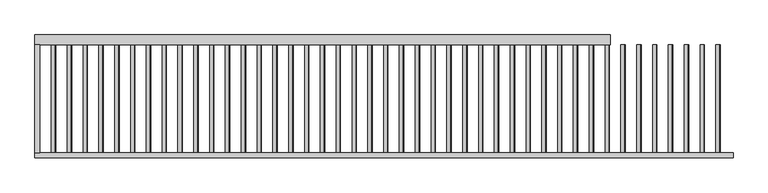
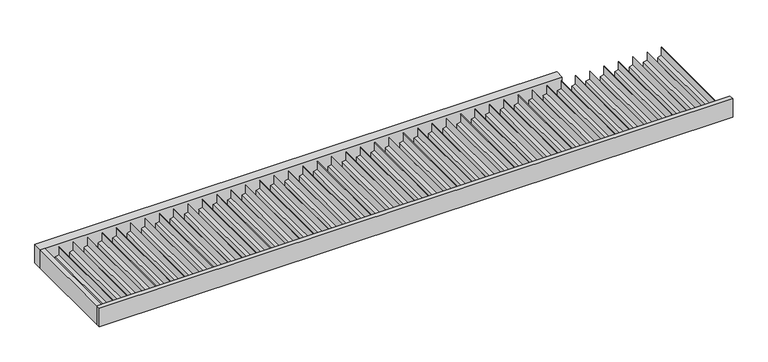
"""IFC4 building model written with IfcOpenShell, lengths in millimetres: proxy geometry, Renson_Amani_Canopy : Renson_Amani_Canopy."""

from ifc_helpers import new_model, si_unit, frame, origin, place, context, project, spatial, polyline, outline, extrude, source, transform, mapped, element, save


def generic_models_fbfd15e4(model_context):
    return source(origin(), model_context, "Body", "SweptSolid", [
        extrude(outline(polyline([(-99.0, 4735.0), (-150.0, 4735.0), (-150.0, 4765.0), (-27.0, 4765.0), (-27.0, 4763.0), (-92.0, 4763.0), (-99.0, 4735.0)])), frame((0.0, -820.0, 0.0), z_axis=(0.0, 1.0, 0.0), x_axis=(0.0, 0.0, 1.0)), (0.0, 0.0, 1.0), 750.0),
        extrude(outline(polyline([(-99.0, 4625.0), (-150.0, 4625.0), (-150.0, 4655.0), (-27.0, 4655.0), (-27.0, 4653.0), (-92.0, 4653.0), (-99.0, 4625.0)])), frame((0.0, -820.0, 0.0), z_axis=(0.0, 1.0, 0.0), x_axis=(0.0, 0.0, 1.0)), (0.0, 0.0, 1.0), 750.0),
        extrude(outline(polyline([(-99.0, 4515.0), (-150.0, 4515.0), (-150.0, 4545.0), (-27.0, 4545.0), (-27.0, 4543.0), (-92.0, 4543.0), (-99.0, 4515.0)])), frame((0.0, -820.0, 0.0), z_axis=(0.0, 1.0, 0.0), x_axis=(0.0, 0.0, 1.0)), (0.0, 0.0, 1.0), 750.0),
        extrude(outline(polyline([(-99.0, 4405.0), (-150.0, 4405.0), (-150.0, 4435.0), (-27.0, 4435.0), (-27.0, 4433.0), (-92.0, 4433.0), (-99.0, 4405.0)])), frame((0.0, -820.0, 0.0), z_axis=(0.0, 1.0, 0.0), x_axis=(0.0, 0.0, 1.0)), (0.0, 0.0, 1.0), 750.0),
        extrude(outline(polyline([(-99.0, 4295.0), (-150.0, 4295.0), (-150.0, 4325.0), (-27.0, 4325.0), (-27.0, 4323.0), (-92.0, 4323.0), (-99.0, 4295.0)])), frame((0.0, -820.0, 0.0), z_axis=(0.0, 1.0, 0.0), x_axis=(0.0, 0.0, 1.0)), (0.0, 0.0, 1.0), 750.0),
        extrude(outline(polyline([(-99.0, 4185.0), (-150.0, 4185.0), (-150.0, 4215.0), (-27.0, 4215.0), (-27.0, 4213.0), (-92.0, 4213.0), (-99.0, 4185.0)])), frame((0.0, -820.0, 0.0), z_axis=(0.0, 1.0, 0.0), x_axis=(0.0, 0.0, 1.0)), (0.0, 0.0, 1.0), 750.0),
        extrude(outline(polyline([(-99.0, 4075.0), (-150.0, 4075.0), (-150.0, 4105.0), (-27.0, 4105.0), (-27.0, 4103.0), (-92.0, 4103.0), (-99.0, 4075.0)])), frame((0.0, -820.0, 0.0), z_axis=(0.0, 1.0, 0.0), x_axis=(0.0, 0.0, 1.0)), (0.0, 0.0, 1.0), 750.0),
        extrude(outline(polyline([(-99.0, 3965.0), (-150.0, 3965.0), (-150.0, 3995.0), (-27.0, 3995.0), (-27.0, 3993.0), (-92.0, 3993.0), (-99.0, 3965.0)])), frame((0.0, -820.0, 0.0), z_axis=(0.0, 1.0, 0.0), x_axis=(0.0, 0.0, 1.0)), (0.0, 0.0, 1.0), 750.0),
        extrude(outline(polyline([(-99.0, 3855.0), (-150.0, 3855.0), (-150.0, 3885.0), (-27.0, 3885.0), (-27.0, 3883.0), (-92.0, 3883.0), (-99.0, 3855.0)])), frame((0.0, -820.0, 0.0), z_axis=(0.0, 1.0, 0.0), x_axis=(0.0, 0.0, 1.0)), (0.0, 0.0, 1.0), 750.0),
        extrude(outline(polyline([(-99.0, 3745.0), (-150.0, 3745.0), (-150.0, 3775.0), (-27.0, 3775.0), (-27.0, 3773.0), (-92.0, 3773.0), (-99.0, 3745.0)])), frame((0.0, -820.0, 0.0), z_axis=(0.0, 1.0, 0.0), x_axis=(0.0, 0.0, 1.0)), (0.0, 0.0, 1.0), 750.0),
        extrude(outline(polyline([(-99.0, 3635.0), (-150.0, 3635.0), (-150.0, 3665.0), (-27.0, 3665.0), (-27.0, 3663.0), (-92.0, 3663.0), (-99.0, 3635.0)])), frame((0.0, -820.0, 0.0), z_axis=(0.0, 1.0, 0.0), x_axis=(0.0, 0.0, 1.0)), (0.0, 0.0, 1.0), 750.0),
        extrude(outline(polyline([(-99.0, 3525.0), (-150.0, 3525.0), (-150.0, 3555.0), (-27.0, 3555.0), (-27.0, 3553.0), (-92.0, 3553.0), (-99.0, 3525.0)])), frame((0.0, -820.0, 0.0), z_axis=(0.0, 1.0, 0.0), x_axis=(0.0, 0.0, 1.0)), (0.0, 0.0, 1.0), 750.0),
        extrude(outline(polyline([(-99.0, 3415.0), (-150.0, 3415.0), (-150.0, 3445.0), (-27.0, 3445.0), (-27.0, 3443.0), (-92.0, 3443.0), (-99.0, 3415.0)])), frame((0.0, -820.0, 0.0), z_axis=(0.0, 1.0, 0.0), x_axis=(0.0, 0.0, 1.0)), (0.0, 0.0, 1.0), 750.0),
        extrude(outline(polyline([(-99.0, 3305.0), (-150.0, 3305.0), (-150.0, 3335.0), (-27.0, 3335.0), (-27.0, 3333.0), (-92.0, 3333.0), (-99.0, 3305.0)])), frame((0.0, -820.0, 0.0), z_axis=(0.0, 1.0, 0.0), x_axis=(0.0, 0.0, 1.0)), (0.0, 0.0, 1.0), 750.0),
        extrude(outline(polyline([(-99.0, 3195.0), (-150.0, 3195.0), (-150.0, 3225.0), (-27.0, 3225.0), (-27.0, 3223.0), (-92.0, 3223.0), (-99.0, 3195.0)])), frame((0.0, -820.0, 0.0), z_axis=(0.0, 1.0, 0.0), x_axis=(0.0, 0.0, 1.0)), (0.0, 0.0, 1.0), 750.0),
        extrude(outline(polyline([(-99.0, 3085.0), (-150.0, 3085.0), (-150.0, 3115.0), (-27.0, 3115.0), (-27.0, 3113.0), (-92.0, 3113.0), (-99.0, 3085.0)])), frame((0.0, -820.0, 0.0), z_axis=(0.0, 1.0, 0.0), x_axis=(0.0, 0.0, 1.0)), (0.0, 0.0, 1.0), 750.0),
        extrude(outline(polyline([(-99.0, 2975.0), (-150.0, 2975.0), (-150.0, 3005.0), (-27.0, 3005.0), (-27.0, 3003.0), (-92.0, 3003.0), (-99.0, 2975.0)])), frame((0.0, -820.0, 0.0), z_axis=(0.0, 1.0, 0.0), x_axis=(0.0, 0.0, 1.0)), (0.0, 0.0, 1.0), 750.0),
        extrude(outline(polyline([(-99.0, 2865.0), (-150.0, 2865.0), (-150.0, 2895.0), (-27.0, 2895.0), (-27.0, 2893.0), (-92.0, 2893.0), (-99.0, 2865.0)])), frame((0.0, -820.0, 0.0), z_axis=(0.0, 1.0, 0.0), x_axis=(0.0, 0.0, 1.0)), (0.0, 0.0, 1.0), 750.0),
        extrude(outline(polyline([(-99.0, 2755.0), (-150.0, 2755.0), (-150.0, 2785.0), (-27.0, 2785.0), (-27.0, 2783.0), (-92.0, 2783.0), (-99.0, 2755.0)])), frame((0.0, -820.0, 0.0), z_axis=(0.0, 1.0, 0.0), x_axis=(0.0, 0.0, 1.0)), (0.0, 0.0, 1.0), 750.0),
        extrude(outline(polyline([(-99.0, 2645.0), (-150.0, 2645.0), (-150.0, 2675.0), (-27.0, 2675.0), (-27.0, 2673.0), (-92.0, 2673.0), (-99.0, 2645.0)])), frame((0.0, -820.0, 0.0), z_axis=(0.0, 1.0, 0.0), x_axis=(0.0, 0.0, 1.0)), (0.0, 0.0, 1.0), 750.0),
        extrude(outline(polyline([(-99.0, 2535.0), (-150.0, 2535.0), (-150.0, 2565.0), (-27.0, 2565.0), (-27.0, 2563.0), (-92.0, 2563.0), (-99.0, 2535.0)])), frame((0.0, -820.0, 0.0), z_axis=(0.0, 1.0, 0.0), x_axis=(0.0, 0.0, 1.0)), (0.0, 0.0, 1.0), 750.0),
        extrude(outline(polyline([(-99.0, 2425.0), (-150.0, 2425.0), (-150.0, 2455.0), (-27.0, 2455.0), (-27.0, 2453.0), (-92.0, 2453.0), (-99.0, 2425.0)])), frame((0.0, -820.0, 0.0), z_axis=(0.0, 1.0, 0.0), x_axis=(0.0, 0.0, 1.0)), (0.0, 0.0, 1.0), 750.0),
        extrude(outline(polyline([(-99.0, 2315.0), (-150.0, 2315.0), (-150.0, 2345.0), (-27.0, 2345.0), (-27.0, 2343.0), (-92.0, 2343.0), (-99.0, 2315.0)])), frame((0.0, -820.0, 0.0), z_axis=(0.0, 1.0, 0.0), x_axis=(0.0, 0.0, 1.0)), (0.0, 0.0, 1.0), 750.0),
        extrude(outline(polyline([(-99.0, 2205.0), (-150.0, 2205.0), (-150.0, 2235.0), (-27.0, 2235.0), (-27.0, 2233.0), (-92.0, 2233.0), (-99.0, 2205.0)])), frame((0.0, -820.0, 0.0), z_axis=(0.0, 1.0, 0.0), x_axis=(0.0, 0.0, 1.0)), (0.0, 0.0, 1.0), 750.0),
        extrude(outline(polyline([(-99.0, 2095.0), (-150.0, 2095.0), (-150.0, 2125.0), (-27.0, 2125.0), (-27.0, 2123.0), (-92.0, 2123.0), (-99.0, 2095.0)])), frame((0.0, -820.0, 0.0), z_axis=(0.0, 1.0, 0.0), x_axis=(0.0, 0.0, 1.0)), (0.0, 0.0, 1.0), 750.0),
        extrude(outline(polyline([(-99.0, 1985.0), (-150.0, 1985.0), (-150.0, 2015.0), (-27.0, 2015.0), (-27.0, 2013.0), (-92.0, 2013.0), (-99.0, 1985.0)])), frame((0.0, -820.0, 0.0), z_axis=(0.0, 1.0, 0.0), x_axis=(0.0, 0.0, 1.0)), (0.0, 0.0, 1.0), 750.0),
        extrude(outline(polyline([(-99.0, 1875.0), (-150.0, 1875.0), (-150.0, 1905.0), (-27.0, 1905.0), (-27.0, 1903.0), (-92.0, 1903.0), (-99.0, 1875.0)])), frame((0.0, -820.0, 0.0), z_axis=(0.0, 1.0, 0.0), x_axis=(0.0, 0.0, 1.0)), (0.0, 0.0, 1.0), 750.0),
        extrude(outline(polyline([(-99.0, 1765.0), (-150.0, 1765.0), (-150.0, 1795.0), (-27.0, 1795.0), (-27.0, 1793.0), (-92.0, 1793.0), (-99.0, 1765.0)])), frame((0.0, -820.0, 0.0), z_axis=(0.0, 1.0, 0.0), x_axis=(0.0, 0.0, 1.0)), (0.0, 0.0, 1.0), 750.0),
        extrude(outline(polyline([(-99.0, 1655.0), (-150.0, 1655.0), (-150.0, 1685.0), (-27.0, 1685.0), (-27.0, 1683.0), (-92.0, 1683.0), (-99.0, 1655.0)])), frame((0.0, -820.0, 0.0), z_axis=(0.0, 1.0, 0.0), x_axis=(0.0, 0.0, 1.0)), (0.0, 0.0, 1.0), 750.0),
        extrude(outline(polyline([(-99.0, 1545.0), (-150.0, 1545.0), (-150.0, 1575.0), (-27.0, 1575.0), (-27.0, 1573.0), (-92.0, 1573.0), (-99.0, 1545.0)])), frame((0.0, -820.0, 0.0), z_axis=(0.0, 1.0, 0.0), x_axis=(0.0, 0.0, 1.0)), (0.0, 0.0, 1.0), 750.0),
        extrude(outline(polyline([(-99.0, 1435.0), (-150.0, 1435.0), (-150.0, 1465.0), (-27.0, 1465.0), (-27.0, 1463.0), (-92.0, 1463.0), (-99.0, 1435.0)])), frame((0.0, -820.0, 0.0), z_axis=(0.0, 1.0, 0.0), x_axis=(0.0, 0.0, 1.0)), (0.0, 0.0, 1.0), 750.0),
        extrude(outline(polyline([(-99.0, 1325.0), (-150.0, 1325.0), (-150.0, 1355.0), (-27.0, 1355.0), (-27.0, 1353.0), (-92.0, 1353.0), (-99.0, 1325.0)])), frame((0.0, -820.0, 0.0), z_axis=(0.0, 1.0, 0.0), x_axis=(0.0, 0.0, 1.0)), (0.0, 0.0, 1.0), 750.0),
        extrude(outline(polyline([(-99.0, 1215.0), (-150.0, 1215.0), (-150.0, 1245.0), (-27.0, 1245.0), (-27.0, 1243.0), (-92.0, 1243.0), (-99.0, 1215.0)])), frame((0.0, -820.0, 0.0), z_axis=(0.0, 1.0, 0.0), x_axis=(0.0, 0.0, 1.0)), (0.0, 0.0, 1.0), 750.0),
        extrude(outline(polyline([(-99.0, 1105.0), (-150.0, 1105.0), (-150.0, 1135.0), (-27.0, 1135.0), (-27.0, 1133.0), (-92.0, 1133.0), (-99.0, 1105.0)])), frame((0.0, -820.0, 0.0), z_axis=(0.0, 1.0, 0.0), x_axis=(0.0, 0.0, 1.0)), (0.0, 0.0, 1.0), 750.0),
        extrude(outline(polyline([(-99.0, 995.0), (-150.0, 995.0), (-150.0, 1025.0), (-27.0, 1025.0), (-27.0, 1023.0), (-92.0, 1023.0), (-99.0, 995.0)])), frame((0.0, -820.0, 0.0), z_axis=(0.0, 1.0, 0.0), x_axis=(0.0, 0.0, 1.0)), (0.0, 0.0, 1.0), 750.0),
        extrude(outline(polyline([(-99.0, 885.0), (-150.0, 885.0), (-150.0, 915.0), (-27.0, 915.0), (-27.0, 913.0), (-92.0, 913.0), (-99.0, 885.0)])), frame((0.0, -820.0, 0.0), z_axis=(0.0, 1.0, 0.0), x_axis=(0.0, 0.0, 1.0)), (0.0, 0.0, 1.0), 750.0),
        extrude(outline(polyline([(-99.0, 775.0), (-150.0, 775.0), (-150.0, 805.0), (-27.0, 805.0), (-27.0, 803.0), (-92.0, 803.0), (-99.0, 775.0)])), frame((0.0, -820.0, 0.0), z_axis=(0.0, 1.0, 0.0), x_axis=(0.0, 0.0, 1.0)), (0.0, 0.0, 1.0), 750.0),
        extrude(outline(polyline([(-99.0, 665.0), (-150.0, 665.0), (-150.0, 695.0), (-27.0, 695.0), (-27.0, 693.0), (-92.0, 693.0), (-99.0, 665.0)])), frame((0.0, -820.0, 0.0), z_axis=(0.0, 1.0, 0.0), x_axis=(0.0, 0.0, 1.0)), (0.0, 0.0, 1.0), 750.0),
        extrude(outline(polyline([(-99.0, 555.0), (-150.0, 555.0), (-150.0, 585.0), (-27.0, 585.0), (-27.0, 583.0), (-92.0, 583.0), (-99.0, 555.0)])), frame((0.0, -820.0, 0.0), z_axis=(0.0, 1.0, 0.0), x_axis=(0.0, 0.0, 1.0)), (0.0, 0.0, 1.0), 750.0),
        extrude(outline(polyline([(-99.0, 445.0), (-150.0, 445.0), (-150.0, 475.0), (-27.0, 475.0), (-27.0, 473.0), (-92.0, 473.0), (-99.0, 445.0)])), frame((0.0, -820.0, 0.0), z_axis=(0.0, 1.0, 0.0), x_axis=(0.0, 0.0, 1.0)), (0.0, 0.0, 1.0), 750.0),
        extrude(outline(polyline([(-99.0, 335.0), (-150.0, 335.0), (-150.0, 365.0), (-27.0, 365.0), (-27.0, 363.0), (-92.0, 363.0), (-99.0, 335.0)])), frame((0.0, -820.0, 0.0), z_axis=(0.0, 1.0, 0.0), x_axis=(0.0, 0.0, 1.0)), (0.0, 0.0, 1.0), 750.0),
        extrude(outline(polyline([(-99.0, 225.0), (-150.0, 225.0), (-150.0, 255.0), (-27.0, 255.0), (-27.0, 253.0), (-92.0, 253.0), (-99.0, 225.0)])), frame((0.0, -820.0, 0.0), z_axis=(0.0, 1.0, 0.0), x_axis=(0.0, 0.0, 1.0)), (0.0, 0.0, 1.0), 750.0),
        extrude(outline(polyline([(-99.0, 115.0), (-150.0, 115.0), (-150.0, 145.0), (-27.0, 145.0), (-27.0, 143.0), (-92.0, 143.0), (-99.0, 115.0)])), frame((0.0, -820.0, 0.0), z_axis=(0.0, 1.0, 0.0), x_axis=(0.0, 0.0, 1.0)), (0.0, 0.0, 1.0), 750.0),
        extrude(outline(polyline([(35.0, -70.0), (35.0, -820.0), (0.0, -820.0), (0.0, -70.0), (35.0, -70.0)])), frame((0.0, 0.0, -150.0), z_axis=(0.0, 0.0, 1.0), x_axis=(1.0, 0.0, 0.0)), (0.0, 0.0, 1.0), 150.0),
        extrude(outline(polyline([(4000.0, -70.0), (0.0, -70.0), (0.0, 0.0), (4000.0, 0.0), (4000.0, -70.0)])), frame((0.0, 0.0, -150.0), z_axis=(0.0, 0.0, 1.0), x_axis=(1.0, 0.0, 0.0)), (0.0, 0.0, 1.0), 150.0),
        extrude(outline(polyline([(4855.0, -855.0), (0.0, -855.0), (0.0, -820.0), (4855.0, -820.0), (4855.0, -855.0)])), frame((0.0, 0.0, -150.0), z_axis=(0.0, 0.0, 1.0), x_axis=(1.0, 0.0, 0.0)), (0.0, 0.0, 1.0), 150.0),
    ])


if __name__ == "__main__":
    model = new_model("IFC4")
    model_context = context("Model", 3, world=origin())
    ifc_project = project(units=[si_unit("LENGTHUNIT", "METRE", prefix="MILLI")], contexts=[model_context])
    site = spatial("IfcSite", under=ifc_project)
    building = spatial("IfcBuilding", under=site)
    placement = place(None, origin())
    generic_models_shape = generic_models_fbfd15e4(model_context)
    element("IfcBuildingElementProxy", 1, Name="Renson_Amani_Canopy : Renson_Amani_Canopy", ObjectType="Renson_Amani_Canopy : Renson_Amani_Canopy", at=placement, inside=building, context=model_context, shape_type="MappedRepresentation", body=[
        mapped(generic_models_shape, transform((0.0, 0.0, 0.0), x_axis=(1.0, 0.0, 0.0), y_axis=(0.0, 1.0, 0.0), z_axis=(0.0, 0.0, 1.0))),
    ])
    save(model, "model.ifc")
